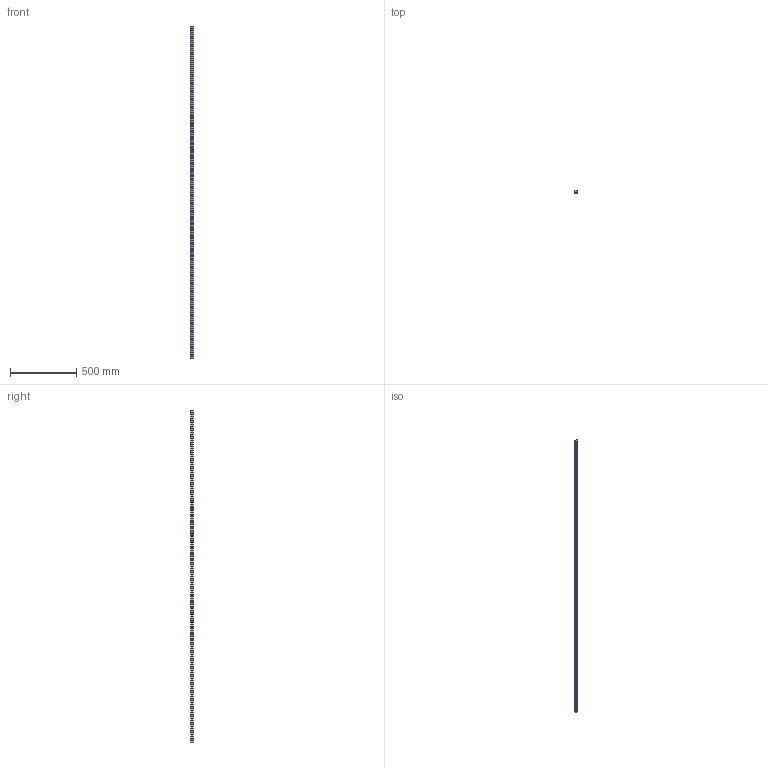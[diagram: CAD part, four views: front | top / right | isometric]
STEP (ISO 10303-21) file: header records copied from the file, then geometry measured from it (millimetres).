
FILE_DESCRIPTION (( 'STEP AP203' ), '1' );
FILE_NAME ('L1016.BL25-2500.step', '2019-06-12T12:11:28', ( '' ), ( '' ), 'SwSTEP 2.0', 'SolidWorks 2017', '' );
FILE_SCHEMA (( 'CONFIG_CONTROL_DESIGN' ));
Length unit declared in the file: millimetre
Products named in the file (1): L1016.BL25-2500
Bounding box: 23 x 19.2 x 2500 mm (x, y, z)
Volume: 921221.6 mm3; surface area: 236683.7 mm2
Topology: 1 solids, 1 shells, 236 faces, 576 edges, 384 vertices
Faces by surface type: cylinder 172, plane 64
Entity records: 7369 total; most frequent: DIRECTION 1394, CARTESIAN_POINT 1197, ORIENTED_EDGE 1152, AXIS2_PLACEMENT_3D 581, EDGE_CURVE 576, VERTEX_POINT 384, EDGE_LOOP 362, CIRCLE 344
